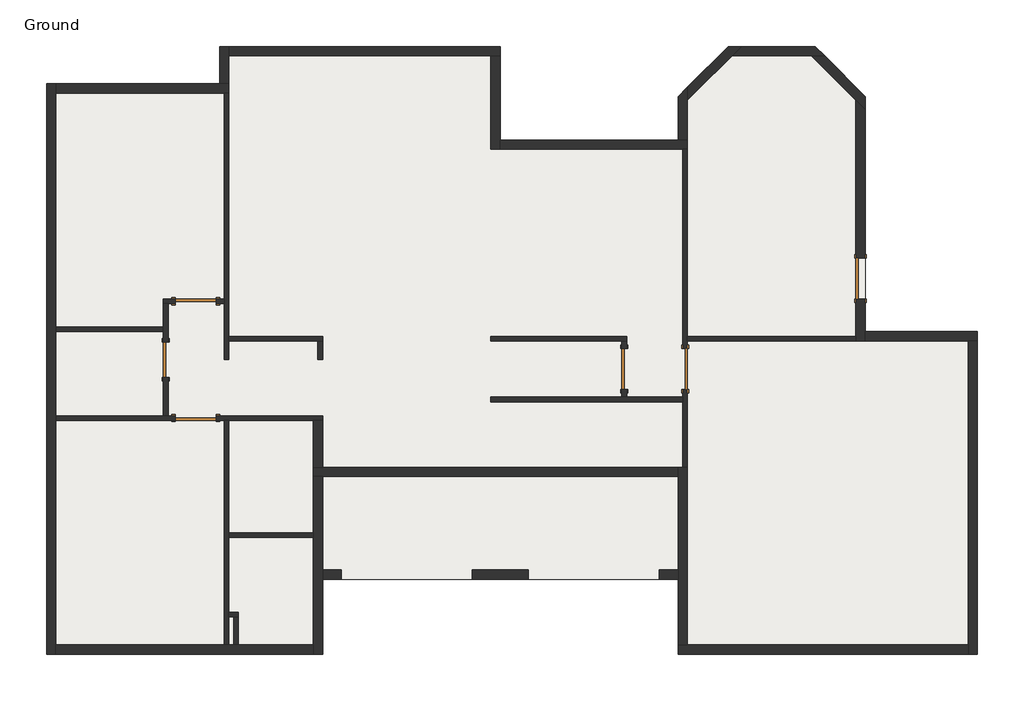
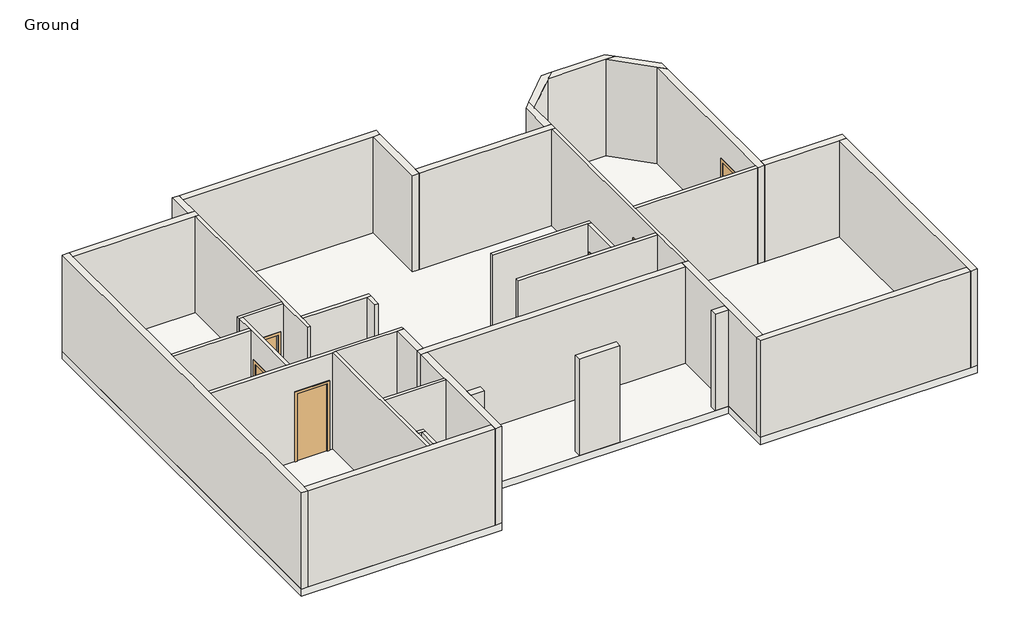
# One storey: 38 walls, 6 doors, 1 slab.
"""IFC4 building model written with IfcOpenShell, lengths in millimetres."""

import ifcopenshell
import ifcopenshell.guid

model = None  # the IFC model being written
_history = None  # IfcOwnerHistory: only IFC2X3 demands one
_inside = {}  # id of a spatial element -> (the spatial element, [elements in it])
_under = {}  # id of a project, library or spatial element -> (it, [spatial elements below it])
_declared = {}  # id of a project -> (the project, [libraries it declares])
_typed = {}  # id of a type object -> (the type object, [elements of that type])
_made_of = {}  # id of a material, layer set ... -> (it, [elements and type objects made of it])


def new_model(schema):
    """Start an empty IFC model of exactly this schema.

    Asked for "IFC4X3", IfcOpenShell would pick the latest addendum, in which some entities
    have other attributes; the version numbers below select the first issue.
    IFC2X3 requires an IfcOwnerHistory on every rooted entity: one is made here for all.
    """
    global model, _history
    if schema == "IFC4X3":
        model = ifcopenshell.file(schema_version=(4, 3, 0, 0))
    else:
        model = ifcopenshell.file(schema=schema)
    _inside.clear()
    _under.clear()
    _declared.clear()
    _typed.clear()
    _made_of.clear()
    _history = None
    if model.schema == "IFC2X3":
        org = make("IfcOrganization", Name="unknown")
        user = make(
            "IfcPersonAndOrganization",
            ThePerson=make("IfcPerson", FamilyName="unknown"),
            TheOrganization=org,
        )
        app = make(
            "IfcApplication",
            ApplicationDeveloper=org,
            Version="unknown",
            ApplicationFullName="unknown",
            ApplicationIdentifier="unknown",
        )
        _history = make(
            "IfcOwnerHistory",
            OwningUser=user,
            OwningApplication=app,
            ChangeAction="ADDED",
            CreationDate=0,
        )
    return model


def make(cls, **values):
    """One entity of the class cls with the attributes given. An attribute that is None is left unset."""
    return model.create_entity(
        cls, **{name: value for name, value in values.items() if value is not None}
    )


def rooted(cls, **values):
    """An entity with a GlobalId (a new one), such as an element, a storey or a relation."""
    return make(cls, GlobalId=ifcopenshell.guid.new(), OwnerHistory=_history, **values)


def si_unit(unit_type, name, prefix=None):
    """IfcSIUnit, for example si_unit("LENGTHUNIT", "METRE", prefix="MILLI")."""
    return make("IfcSIUnit", UnitType=unit_type, Prefix=prefix, Name=name)


def assignment(units):
    """IfcUnitAssignment: the units of a project."""
    return None if units is None else make("IfcUnitAssignment", Units=units)


def point(xyz):
    """IfcCartesianPoint."""
    return None if xyz is None else make("IfcCartesianPoint", Coordinates=xyz)


def direction(xyz):
    """IfcDirection."""
    return None if xyz is None else make("IfcDirection", DirectionRatios=xyz)


def frame(location, z_axis=None, x_axis=None):
    """IfcAxis2Placement3D, a coordinate frame: its origin and axes. An axis left out is left unset."""
    return make(
        "IfcAxis2Placement3D",
        Location=point(location),
        Axis=direction(z_axis),
        RefDirection=direction(x_axis),
    )


def origin():
    """The frame at (0, 0, 0) with its axes left unset."""
    return frame((0.0, 0.0, 0.0))


def origin_with_axes():
    """The frame at (0, 0, 0) with the z axis (0, 0, 1) and the x axis (1, 0, 0) written out."""
    return frame((0.0, 0.0, 0.0), z_axis=(0.0, 0.0, 1.0), x_axis=(1.0, 0.0, 0.0))


def place(relative_to, where):
    """IfcLocalPlacement: puts the frame where relative to a parent placement (None: the world)."""
    return make(
        "IfcLocalPlacement", PlacementRelTo=relative_to, RelativePlacement=where
    )


def context(
    kind, dimensions, precision=None, world=None, true_north=None, identifier=None
):
    """IfcGeometricRepresentationContext, for example the 3D "Model" context."""
    return make(
        "IfcGeometricRepresentationContext",
        ContextIdentifier=identifier,
        ContextType=kind,
        CoordinateSpaceDimension=dimensions,
        Precision=precision,
        WorldCoordinateSystem=world,
        TrueNorth=true_north,
    )


def project(units=None, contexts=None):
    """IfcProject with its units and contexts."""
    return rooted(
        "IfcProject",
        Name="project",
        RepresentationContexts=contexts,
        UnitsInContext=assignment(units),
    )


def spatial(cls, under=None, at=None, **own):
    """A site, building, storey or space (cls), placed at a placement, below another one or the project."""
    s = rooted(cls, ObjectPlacement=at, **own)
    if under is not None:
        _under.setdefault(under.id(), (under, []))[1].append(s)
    return s


def polyline(points):
    """IfcPolyline through the points."""
    return make("IfcPolyline", Points=[point(p) for p in points])


def outline(outer, holes=None, kind="AREA"):
    """IfcArbitraryClosedProfileDef: a profile drawn as a closed curve; with holes, ...WithVoids."""
    if holes is None:
        return make("IfcArbitraryClosedProfileDef", ProfileType=kind, OuterCurve=outer)
    return make(
        "IfcArbitraryProfileDefWithVoids",
        ProfileType=kind,
        OuterCurve=outer,
        InnerCurves=holes,
    )


def extrude(swept, where, along, depth):
    """IfcExtrudedAreaSolid: the profile swept, set in the frame where, extruded along a direction by depth."""
    return make(
        "IfcExtrudedAreaSolid",
        SweptArea=swept,
        Position=where,
        ExtrudedDirection=direction(along),
        Depth=depth,
    )


def faces_of(points, faces, orient=None, outer=None):
    """IfcFace entities. A face is a list of loops; a loop is a list of indices into points, from 0.

    orient and outer hold one flag for each loop. By default every Orientation is true, the
    first loop of a face is its IfcFaceOuterBound and the others are IfcFaceBound.
    """
    made = []
    for i, loops in enumerate(faces):
        bounds = []
        for j, loop in enumerate(loops):
            is_outer = j == 0 if outer is None else outer[i][j]
            bounds.append(
                make(
                    "IfcFaceOuterBound" if is_outer else "IfcFaceBound",
                    Bound=make("IfcPolyLoop", Polygon=[points[k] for k in loop]),
                    Orientation=True if orient is None else orient[i][j],
                )
            )
        made.append(make("IfcFace", Bounds=bounds))
    return made


def faceted_brep(points, faces, orient=None, outer=None, voids=None):
    """IfcFacetedBrep: a solid bounded by flat faces; with voids (closed shells), ...WithVoids."""
    shared = [point(p) for p in points]
    hull = make("IfcClosedShell", CfsFaces=faces_of(shared, faces, orient, outer))
    if voids is None:
        return make("IfcFacetedBrep", Outer=hull)
    return make(
        "IfcFacetedBrepWithVoids",
        Outer=hull,
        Voids=[
            make(cls, CfsFaces=faces_of(shared, fs, o, b)) for cls, fs, o, b in voids
        ],
    )


def shape(context_of_items, identifier, shape_type, items):
    """IfcShapeRepresentation: the items that make up one representation, for example the "Body"."""
    return make(
        "IfcShapeRepresentation",
        ContextOfItems=context_of_items,
        RepresentationIdentifier=identifier,
        RepresentationType=shape_type,
        Items=items,
    )


def source(mapping_origin, context_of_items, identifier, shape_type, items):
    """IfcRepresentationMap: a shape defined once, which mapped items show again and again."""
    return make(
        "IfcRepresentationMap",
        MappingOrigin=mapping_origin,
        MappedRepresentation=shape(context_of_items, identifier, shape_type, items),
    )


def transform(
    local_origin,
    x_axis=None,
    y_axis=None,
    z_axis=None,
    scale=None,
    scale2=None,
    scale3=None,
    uniform=True,
):
    """IfcCartesianTransformationOperator3D, or its non-uniform kind. x_axis, y_axis, z_axis: its Axis1, 2, 3."""
    if uniform:
        return make(
            "IfcCartesianTransformationOperator3D",
            Axis1=direction(x_axis),
            Axis2=direction(y_axis),
            LocalOrigin=point(local_origin),
            Scale=scale,
            Axis3=direction(z_axis),
        )
    return make(
        "IfcCartesianTransformationOperator3DnonUniform",
        Axis1=direction(x_axis),
        Axis2=direction(y_axis),
        LocalOrigin=point(local_origin),
        Scale=scale,
        Axis3=direction(z_axis),
        Scale2=scale2,
        Scale3=scale3,
    )


def mapped(mapping_source, mapping_target):
    """IfcMappedItem: shows the shape of a source again, moved by a transform."""
    return make(
        "IfcMappedItem", MappingSource=mapping_source, MappingTarget=mapping_target
    )


def made_of(thing, what):
    """Note that an element or type object is made of a material, layer set ...; save() writes the relation."""
    if what is not None:
        _made_of.setdefault(what.id(), (what, []))[1].append(thing)
    return thing


def element(
    cls,
    number,
    at=None,
    inside=None,
    cuts=None,
    type_object=None,
    material=None,
    context=None,
    identifier="Body",
    shape_type=None,
    held_by="IfcProductDefinitionShape",
    body=None,
    shapes=None,
    **own,
):
    """One element of the class cls, such as IfcWall. Its Tag is "e" and its number.

    at: its placement. inside: the storey or other place that contains it. cuts: it is an
    opening in that element (IfcRelVoidsElement). A single representation is given by context,
    identifier, shape_type and body (its items); several are given by shapes. held_by: the class
    of the entity that holds the representations. save() writes the other relations.
    """
    e = rooted(cls, Tag="e%d" % number, ObjectPlacement=at, **own)
    if body is not None:
        shapes = [shape(context, identifier, shape_type, body)]
    if shapes is not None:
        e.Representation = make(held_by, Representations=shapes)
    if inside is not None:
        _inside.setdefault(inside.id(), (inside, []))[1].append(e)
    if cuts is not None:
        rooted(
            "IfcRelVoidsElement", RelatingBuildingElement=cuts, RelatedOpeningElement=e
        )
    if type_object is not None:
        _typed.setdefault(type_object.id(), (type_object, []))[1].append(e)
    return made_of(e, material)


def aggregate(whole, parts):
    """IfcRelAggregates: a whole, such as a stair, and the parts it consists of."""
    return rooted("IfcRelAggregates", RelatingObject=whole, RelatedObjects=parts)


def save(model, path):
    """Write the relations noted so far, then the file.

    IfcRelAggregates (storeys below a building ...), IfcRelContainedInSpatialStructure (elements
    in a storey), IfcRelDefinesByType, IfcRelAssociatesMaterial and IfcRelDeclares: one each for
    every whole, place, type object, material and project.
    """
    for whole, parts in _under.values():
        aggregate(whole, parts)
    for where, things in _inside.values():
        rooted(
            "IfcRelContainedInSpatialStructure",
            RelatedElements=things,
            RelatingStructure=where,
        )
    for kind, things in _typed.values():
        rooted("IfcRelDefinesByType", RelatedObjects=things, RelatingType=kind)
    for what, things in _made_of.values():
        rooted("IfcRelAssociatesMaterial", RelatedObjects=things, RelatingMaterial=what)
    for by, libraries in _declared.values():
        rooted("IfcRelDeclares", RelatingContext=by, RelatedDefinitions=libraries)
    model.write(path)


def m_single_flush_0750x_2100mm_00401f9a(model_context):
    return source(origin(), model_context, "Body", "SweptSolid", [
        extrude(outline(polyline([(2176.0, -451.0), (0.0, -451.0), (0.0, -375.0), (2100.0, -375.0), (2100.0, 375.0), (0.0, 375.0), (0.0, 451.0), (2176.0, 451.0), (2176.0, -451.0)])), frame((0.0, -75.0, 0.0), z_axis=(0.0, 1.0, 0.0), x_axis=(0.0, 0.0, 1.0)), (0.0, 0.0, 1.0), 25.0),
        extrude(outline(polyline([(2176.0, 451.0), (2176.0, -451.0), (0.0, -451.0), (0.0, -375.0), (2100.0, -375.0), (2100.0, 375.0), (0.0, 375.0), (0.0, 451.0), (2176.0, 451.0)])), frame((0.0, 50.0, 0.0), z_axis=(0.0, 1.0, 0.0), x_axis=(0.0, 0.0, 1.0)), (0.0, 0.0, 1.0), 25.0),
        extrude(outline(polyline([(375.0, 1.0), (375.0, -50.0), (-375.0, -50.0), (-375.0, 1.0), (375.0, 1.0)])), origin_with_axes(), (0.0, 0.0, 1.0), 2100.0),
    ])


def m_single_flush_0875x_2100mm_6ab5fb2a(model_context):
    return source(origin(), model_context, "Body", "SweptSolid", [
        extrude(outline(polyline([(2176.0, -513.5), (0.0, -513.5), (0.0, -437.5), (2100.0, -437.5), (2100.0, 437.5), (0.0, 437.5), (0.0, 513.5), (2176.0, 513.5), (2176.0, -513.5)])), frame((0.0, 50.0, 0.0), z_axis=(0.0, 1.0, 0.0), x_axis=(0.0, 0.0, 1.0)), (0.0, 0.0, 1.0), 25.0),
        extrude(outline(polyline([(2176.0, 513.5), (2176.0, -513.5), (0.0, -513.5), (0.0, -437.5), (2100.0, -437.5), (2100.0, 437.5), (0.0, 437.5), (0.0, 513.5), (2176.0, 513.5)])), frame((0.0, -75.0, 0.0), z_axis=(0.0, 1.0, 0.0), x_axis=(0.0, 0.0, 1.0)), (0.0, 0.0, 1.0), 25.0),
        extrude(outline(polyline([(437.5, -1.0), (-437.5, -1.0), (-437.5, 50.0), (437.5, 50.0), (437.5, -1.0)])), origin_with_axes(), (0.0, 0.0, 1.0), 2100.0),
    ])


def m_single_flush_0875x_2100mm_75bba9fe(model_context):
    return source(origin(), model_context, "Body", "SweptSolid", [
        extrude(outline(polyline([(2176.0, -513.5), (0.0, -513.5), (0.0, -437.5), (2100.0, -437.5), (2100.0, 437.5), (0.0, 437.5), (0.0, 513.5), (2176.0, 513.5), (2176.0, -513.5)])), frame((0.0, -75.0, 0.0), z_axis=(0.0, 1.0, 0.0), x_axis=(0.0, 0.0, 1.0)), (0.0, 0.0, 1.0), 25.0),
        extrude(outline(polyline([(2176.0, 513.5), (2176.0, -513.5), (0.0, -513.5), (0.0, -437.5), (2100.0, -437.5), (2100.0, 437.5), (0.0, 437.5), (0.0, 513.5), (2176.0, 513.5)])), frame((0.0, 50.0, 0.0), z_axis=(0.0, 1.0, 0.0), x_axis=(0.0, 0.0, 1.0)), (0.0, 0.0, 1.0), 25.0),
        extrude(outline(polyline([(437.5, 1.0), (437.5, -50.0), (-437.5, -50.0), (-437.5, 1.0), (437.5, 1.0)])), origin_with_axes(), (0.0, 0.0, 1.0), 2100.0),
    ])


def m_single_flush_0875x_2100mm_70c1e8a7(model_context):
    return source(origin(), model_context, "Body", "SweptSolid", [
        extrude(outline(polyline([(2176.0, -513.5), (0.0, -513.5), (0.0, -437.5), (2100.0, -437.5), (2100.0, 437.5), (0.0, 437.5), (0.0, 513.5), (2176.0, 513.5), (2176.0, -513.5)])), frame((0.0, -125.0, 0.0), z_axis=(0.0, 1.0, 0.0), x_axis=(0.0, 0.0, 1.0)), (0.0, 0.0, 1.0), 25.0),
        extrude(outline(polyline([(2176.0, 513.5), (2176.0, -513.5), (0.0, -513.5), (0.0, -437.5), (2100.0, -437.5), (2100.0, 437.5), (0.0, 437.5), (0.0, 513.5), (2176.0, 513.5)])), frame((0.0, 100.0, 0.0), z_axis=(0.0, 1.0, 0.0), x_axis=(0.0, 0.0, 1.0)), (0.0, 0.0, 1.0), 25.0),
        extrude(outline(polyline([(437.5, -49.0), (437.5, -100.0), (-437.5, -100.0), (-437.5, -49.0), (437.5, -49.0)])), origin_with_axes(), (0.0, 0.0, 1.0), 2100.0),
    ])


model = new_model("IFC4")

# Units and contexts
model_context = context("Model", 3, world=origin())
ifc_project = project(units=[si_unit("LENGTHUNIT", "METRE", prefix="MILLI")], contexts=[model_context])

# Site, building, storey
site = spatial("IfcSite", under=ifc_project)
building = spatial("IfcBuilding", under=site)
storey = spatial("IfcBuildingStorey", under=building, Name="Ground", Elevation=0.0)

# Doors
placement = place(None, origin())
m_single_flush_0750x_2100mm_shape = m_single_flush_0750x_2100mm_00401f9a(model_context)
element("IfcDoor", 1, ObjectType="M_Single-Flush : 0750x 2100mm", at=placement, inside=storey, context=model_context, shape_type="MappedRepresentation", body=[
    mapped(m_single_flush_0750x_2100mm_shape, transform((-11423.1044048, -609.3326669, 0.0), x_axis=(0.0, -1.0, 0.0), y_axis=(1.0, 0.0, 0.0), z_axis=(0.0, 0.0, 1.0))),
])
m_single_flush_0875x_2100mm_shape = m_single_flush_0875x_2100mm_6ab5fb2a(model_context)
element("IfcDoor", 2, ObjectType="M_Single-Flush : 0875x 2100mm", at=placement, inside=storey, context=model_context, shape_type="MappedRepresentation", body=[
    mapped(m_single_flush_0875x_2100mm_shape, transform((-10785.6044048, 640.6673331, 0.0), x_axis=(1.0, 0.0, 0.0), y_axis=(0.0, 1.0, 0.0), z_axis=(0.0, 0.0, 1.0))),
])
element("IfcDoor", 3, ObjectType="M_Single-Flush : 0875x 2100mm", at=placement, inside=storey, context=model_context, shape_type="MappedRepresentation", body=[
    mapped(m_single_flush_0875x_2100mm_shape, transform((-1623.1044048, -809.3326669, 0.0), x_axis=(0.0, 1.0, 0.0), y_axis=(-1.0, 0.0, 0.0), z_axis=(0.0, 0.0, 1.0))),
])
m_single_flush_0875x_2100mm_2_shape = m_single_flush_0875x_2100mm_75bba9fe(model_context)
element("IfcDoor", 4, ObjectType="M_Single-Flush : 0875x 2100mm", at=placement, inside=storey, context=model_context, shape_type="MappedRepresentation", body=[
    mapped(m_single_flush_0875x_2100mm_2_shape, transform((-10785.6044048, -1859.3326669, 0.0), x_axis=(1.0, 0.0, 0.0), y_axis=(0.0, 1.0, 0.0), z_axis=(0.0, 0.0, 1.0))),
])
element("IfcDoor", 5, ObjectType="M_Single-Flush : 0875x 2100mm", at=placement, inside=storey, context=model_context, shape_type="MappedRepresentation", body=[
    mapped(m_single_flush_0875x_2100mm_2_shape, transform((-323.1044048, -809.3326669, 0.0), x_axis=(0.0, 1.0, 0.0), y_axis=(-1.0, 0.0, 0.0), z_axis=(0.0, 0.0, 1.0))),
])
m_single_flush_0875x_2100mm_3_shape = m_single_flush_0875x_2100mm_70c1e8a7(model_context)
element("IfcDoor", 6, ObjectType="M_Single-Flush : 0875x 2100mm", at=placement, inside=storey, context=model_context, shape_type="MappedRepresentation", body=[
    mapped(m_single_flush_0875x_2100mm_3_shape, transform((3426.8955952, 1128.1673331, 0.0), x_axis=(0.0, -1.0, 0.0), y_axis=(1.0, 0.0, 0.0), z_axis=(0.0, 0.0, 1.0))),
])

# Slab
element("IfcSlab", 7, ObjectType="Insitu Concrete 225mm", at=placement, inside=storey, context=model_context, shape_type="SweptSolid", body=[
    extrude(outline(polyline([(-13973.1044048, 5290.6673331), (-10273.1044048, 5290.6673331), (-10273.1044048, 6090.6673331), (-4273.1044048, 6090.6673331), (-4273.1044048, 4090.6673331), (-473.1044048, 4090.6673331), (-473.1044048, 5022.038183), (595.5247453, 6090.6673331), (2458.2664451, 6090.6673331), (3526.8955952, 5022.038183), (3526.8955952, -9.3326669), (5926.8955952, -9.3326669), (5926.8955952, -6909.3326669), (-473.1044048, -6909.3326669), (-473.1044048, -5309.3326669), (-8073.1044048, -5309.3326669), (-8073.1044048, -6909.3326669), (-13973.1044048, -6909.3326669), (-13973.1044048, 5290.6673331)])), frame((0.0, 0.0, -225.0), z_axis=(0.0, 0.0, 1.0), x_axis=(1.0, 0.0, 0.0)), (0.0, 0.0, 1.0), 225.0),
])

# Walls
element("IfcWall", 8, ObjectType="Generic - 100mm", at=placement, inside=storey, context=model_context, shape_type="Brep", body=[
    faceted_brep([(-10348.1044048, -1909.3326669, 2100.0), (-10348.1044048, -1909.3326669, 0.0), (-10173.1044048, -1909.3326669, 0.0), (-10073.1044048, -1909.3326669, 0.0), (-8273.1044048, -1909.3326669, 0.0), (-8073.1044048, -1909.3326669, 0.0), (-8073.1044048, -1909.3326669, 3000.0), (-8273.1044048, -1909.3326669, 3000.0), (-10073.1044048, -1909.3326669, 3000.0), (-10173.1044048, -1909.3326669, 3000.0), (-13773.1044048, -1909.3326669, 3000.0), (-13773.1044048, -1909.3326669, 0.0), (-11223.1044048, -1909.3326669, 0.0), (-11223.1044048, -1909.3326669, 2100.0), (-8073.1044048, -1809.3326669, 0.0), (-10348.1044048, -1809.3326669, 0.0), (-10348.1044048, -1809.3326669, 2100.0), (-11223.1044048, -1809.3326669, 2100.0), (-11223.1044048, -1809.3326669, 0.0), (-11373.1044048, -1809.3326669, 0.0), (-11473.1044048, -1809.3326669, 0.0), (-13773.1044048, -1809.3326669, 0.0), (-13773.1044048, -1809.3326669, 3000.0), (-11473.1044048, -1809.3326669, 3000.0), (-11373.1044048, -1809.3326669, 3000.0), (-8073.1044048, -1809.3326669, 3000.0)], [[[0, 1, 2, 3, 4, 5, 6, 7, 8, 9, 10, 11, 12, 13]], [[14, 15, 16, 17, 18, 19, 20, 21, 22, 23, 24, 25]], [[12, 11, 21, 20, 19, 18]], [[5, 4, 3, 2, 1, 15, 14]], [[10, 9, 8, 7, 6, 25, 24, 23, 22]], [[11, 10, 22, 21]], [[6, 5, 14, 25]], [[16, 15, 1, 0]], [[17, 16, 0, 13]], [[18, 17, 13, 12]]]),
])
element("IfcWall", 9, ObjectType="Generic - 100mm", at=placement, inside=storey, context=model_context, shape_type="Brep", body=[
    faceted_brep([(-10173.1044048, -1909.3326669, 0.0), (-10173.1044048, -6709.3326669, 0.0), (-10173.1044048, -6709.3326669, 3000.0), (-10173.1044048, -1909.3326669, 3000.0), (-10073.1044048, -1909.3326669, 0.0), (-10073.1044048, -1909.3326669, 3000.0), (-10073.1044048, -4309.3326669, 3000.0), (-10073.1044048, -4409.3326669, 3000.0), (-10073.1044048, -6009.3326669, 3000.0), (-10073.1044048, -6109.3326669, 3000.0), (-10073.1044048, -6709.3326669, 3000.0), (-10073.1044048, -6709.3326669, 0.0), (-10073.1044048, -6109.3326669, 0.0), (-10073.1044048, -6009.3326669, 0.0), (-10073.1044048, -4409.3326669, 0.0), (-10073.1044048, -4309.3326669, 0.0)], [[[0, 1, 2, 3]], [[4, 5, 6, 7, 8, 9, 10, 11, 12, 13, 14, 15]], [[1, 0, 4, 15, 14, 13, 12, 11]], [[3, 2, 10, 9, 8, 7, 6, 5]], [[2, 1, 11, 10]], [[0, 3, 5, 4]]]),
])
element("IfcWall", 10, ObjectType="Generic - 100mm", at=placement, inside=storey, context=model_context, shape_type="SweptSolid", body=[
    extrude(outline(polyline([(-10073.1044048, -4309.3326669), (-8273.1044048, -4309.3326669), (-8273.1044048, -4409.3326669), (-10073.1044048, -4409.3326669), (-10073.1044048, -4309.3326669)])), origin_with_axes(), (0.0, 0.0, 1.0), 3000.0),
])
element("IfcWall", 11, ObjectType="Generic - 100mm", at=placement, inside=storey, context=model_context, shape_type="Brep", body=[
    faceted_brep([(-10073.1044048, -6109.3326669, 0.0), (-9973.1044048, -6109.3326669, 0.0), (-9873.1044048, -6109.3326669, 0.0), (-9873.1044048, -6109.3326669, 3000.0), (-9973.1044048, -6109.3326669, 3000.0), (-10073.1044048, -6109.3326669, 3000.0), (-10073.1044048, -6009.3326669, 0.0), (-10073.1044048, -6009.3326669, 3000.0), (-9873.1044048, -6009.3326669, 3000.0), (-9873.1044048, -6009.3326669, 0.0)], [[[0, 1, 2, 3, 4, 5]], [[6, 7, 8, 9]], [[2, 1, 0, 6, 9]], [[5, 4, 3, 8, 7]], [[0, 5, 7, 6]], [[3, 2, 9, 8]]]),
])
element("IfcWall", 12, ObjectType="Generic - 100mm", at=placement, inside=storey, context=model_context, shape_type="SweptSolid", body=[
    extrude(outline(polyline([(-9973.1044048, -6709.3326669), (-9973.1044048, -6109.3326669), (-9873.1044048, -6109.3326669), (-9873.1044048, -6709.3326669), (-9973.1044048, -6709.3326669)])), origin_with_axes(), (0.0, 0.0, 1.0), 3000.0),
])
element("IfcWall", 13, ObjectType="Generic - 100mm", at=placement, inside=storey, context=model_context, shape_type="SweptSolid", body=[
    extrude(outline(polyline([(-11473.1044048, -9.3326669), (-13773.1044048, -9.3326669), (-13773.1044048, 90.6673331), (-11473.1044048, 90.6673331), (-11473.1044048, -9.3326669)])), origin_with_axes(), (0.0, 0.0, 1.0), 3000.0),
])
element("IfcWall", 14, ObjectType="Generic - 100mm", at=placement, inside=storey, context=model_context, shape_type="Brep", body=[
    faceted_brep([(-10173.1044048, 5090.6673331, 0.0), (-10173.1044048, 690.6673331, 0.0), (-10173.1044048, 590.6673331, 0.0), (-10173.1044048, -609.3326669, 0.0), (-10173.1044048, -609.3326669, 3000.0), (-10173.1044048, 590.6673331, 3000.0), (-10173.1044048, 690.6673331, 3000.0), (-10173.1044048, 5090.6673331, 3000.0), (-10073.1044048, 5090.6673331, 0.0), (-10073.1044048, 5090.6673331, 3000.0), (-10073.1044048, -109.3326669, 3000.0), (-10073.1044048, -209.3326669, 3000.0), (-10073.1044048, -609.3326669, 3000.0), (-10073.1044048, -609.3326669, 0.0), (-10073.1044048, -209.3326669, 0.0), (-10073.1044048, -109.3326669, 0.0)], [[[0, 1, 2, 3, 4, 5, 6, 7]], [[8, 9, 10, 11, 12, 13, 14, 15]], [[3, 2, 1, 0, 8, 15, 14, 13]], [[4, 3, 13, 12]], [[7, 6, 5, 4, 12, 11, 10, 9]], [[0, 7, 9, 8]]]),
])
element("IfcWall", 15, ObjectType="Generic - 100mm", at=placement, inside=storey, context=model_context, shape_type="Brep", body=[
    faceted_brep([(-10173.1044048, 690.6673331, 0.0), (-10348.1044048, 690.6673331, 0.0), (-10348.1044048, 690.6673331, 2100.0), (-11223.1044048, 690.6673331, 2100.0), (-11223.1044048, 690.6673331, 0.0), (-11473.1044048, 690.6673331, 0.0), (-11473.1044048, 690.6673331, 3000.0), (-10173.1044048, 690.6673331, 3000.0), (-10348.1044048, 590.6673331, 2100.0), (-10348.1044048, 590.6673331, 0.0), (-10173.1044048, 590.6673331, 0.0), (-10173.1044048, 590.6673331, 3000.0), (-11373.1044048, 590.6673331, 3000.0), (-11473.1044048, 590.6673331, 3000.0), (-11473.1044048, 590.6673331, 0.0), (-11373.1044048, 590.6673331, 0.0), (-11223.1044048, 590.6673331, 0.0), (-11223.1044048, 590.6673331, 2100.0)], [[[0, 1, 2, 3, 4, 5, 6, 7]], [[8, 9, 10, 11, 12, 13, 14, 15, 16, 17]], [[10, 9, 1, 0]], [[16, 15, 14, 5, 4]], [[7, 6, 13, 12, 11]], [[0, 7, 11, 10]], [[6, 5, 14, 13]], [[2, 1, 9, 8]], [[3, 2, 8, 17]], [[4, 3, 17, 16]]]),
])
element("IfcWall", 16, ObjectType="Generic - 100mm", at=placement, inside=storey, context=model_context, shape_type="Brep", body=[
    faceted_brep([(-11473.1044048, -984.3326669, 2100.0), (-11473.1044048, -984.3326669, 0.0), (-11473.1044048, -1809.3326669, 0.0), (-11473.1044048, -1809.3326669, 3000.0), (-11473.1044048, -9.3326669, 3000.0), (-11473.1044048, 90.6673331, 3000.0), (-11473.1044048, 590.6673331, 3000.0), (-11473.1044048, 590.6673331, 0.0), (-11473.1044048, 90.6673331, 0.0), (-11473.1044048, -9.3326669, 0.0), (-11473.1044048, -234.3326669, 0.0), (-11473.1044048, -234.3326669, 2100.0), (-11373.1044048, -1809.3326669, 0.0), (-11373.1044048, -984.3326669, 0.0), (-11373.1044048, -984.3326669, 2100.0), (-11373.1044048, -234.3326669, 2100.0), (-11373.1044048, -234.3326669, 0.0), (-11373.1044048, 590.6673331, 0.0), (-11373.1044048, 590.6673331, 3000.0), (-11373.1044048, -1809.3326669, 3000.0)], [[[0, 1, 2, 3, 4, 5, 6, 7, 8, 9, 10, 11]], [[12, 13, 14, 15, 16, 17, 18, 19]], [[2, 1, 13, 12]], [[10, 9, 8, 7, 17, 16]], [[6, 5, 4, 3, 19, 18]], [[7, 6, 18, 17]], [[3, 2, 12, 19]], [[14, 13, 1, 0]], [[15, 14, 0, 11]], [[16, 15, 11, 10]]]),
])
element("IfcWall", 17, ObjectType="Generic - 100mm", at=placement, inside=storey, context=model_context, shape_type="Brep", body=[
    faceted_brep([(-10073.1044048, -209.3326669, 0.0), (-8173.1044048, -209.3326669, 0.0), (-8073.1044048, -209.3326669, 0.0), (-8073.1044048, -209.3326669, 3000.0), (-8173.1044048, -209.3326669, 3000.0), (-10073.1044048, -209.3326669, 3000.0), (-10073.1044048, -109.3326669, 0.0), (-10073.1044048, -109.3326669, 3000.0), (-8073.1044048, -109.3326669, 3000.0), (-8073.1044048, -109.3326669, 0.0)], [[[0, 1, 2, 3, 4, 5]], [[6, 7, 8, 9]], [[2, 1, 0, 6, 9]], [[5, 4, 3, 8, 7]], [[0, 5, 7, 6]], [[3, 2, 9, 8]]]),
])
element("IfcWall", 18, ObjectType="Generic - 100mm", at=placement, inside=storey, context=model_context, shape_type="SweptSolid", body=[
    extrude(outline(polyline([(-8173.1044048, -609.3326669), (-8173.1044048, -209.3326669), (-8073.1044048, -209.3326669), (-8073.1044048, -609.3326669), (-8173.1044048, -609.3326669)])), origin_with_axes(), (0.0, 0.0, 1.0), 3000.0),
])
element("IfcWall", 19, ObjectType="Generic - 100mm", at=placement, inside=storey, context=model_context, shape_type="SweptSolid", body=[
    extrude(outline(polyline([(-273.1044048, -109.3326669), (3326.8955952, -109.3326669), (3326.8955952, -209.3326669), (-273.1044048, -209.3326669), (-273.1044048, -109.3326669)])), origin_with_axes(), (0.0, 0.0, 1.0), 3000.0),
])
element("IfcWall", 20, ObjectType="Generic - 100mm", at=placement, inside=storey, context=model_context, shape_type="Brep", body=[
    faceted_brep([(-273.1044048, -371.8326669, 2100.0), (-273.1044048, -371.8326669, 0.0), (-273.1044048, -209.3326669, 0.0), (-273.1044048, -109.3326669, 0.0), (-273.1044048, 3890.6673331, 0.0), (-273.1044048, 3890.6673331, 3000.0), (-273.1044048, -109.3326669, 3000.0), (-273.1044048, -209.3326669, 3000.0), (-273.1044048, -2909.3326669, 3000.0), (-273.1044048, -2909.3326669, 0.0), (-273.1044048, -1246.8326669, 0.0), (-273.1044048, -1246.8326669, 2100.0), (-373.1044048, 3890.6673331, 0.0), (-373.1044048, -371.8326669, 0.0), (-373.1044048, -371.8326669, 2100.0), (-373.1044048, -1246.8326669, 2100.0), (-373.1044048, -1246.8326669, 0.0), (-373.1044048, -1409.3326669, 0.0), (-373.1044048, -1509.3326669, 0.0), (-373.1044048, -2909.3326669, 0.0), (-373.1044048, -2909.3326669, 3000.0), (-373.1044048, -1509.3326669, 3000.0), (-373.1044048, -1409.3326669, 3000.0), (-373.1044048, 3890.6673331, 3000.0)], [[[0, 1, 2, 3, 4, 5, 6, 7, 8, 9, 10, 11]], [[12, 13, 14, 15, 16, 17, 18, 19, 20, 21, 22, 23]], [[10, 9, 19, 18, 17, 16]], [[4, 3, 2, 1, 13, 12]], [[8, 7, 6, 5, 23, 22, 21, 20]], [[5, 4, 12, 23]], [[9, 8, 20, 19]], [[14, 13, 1, 0]], [[15, 14, 0, 11]], [[16, 15, 11, 10]]]),
])
element("IfcWall", 21, ObjectType="Generic - 100mm", at=placement, inside=storey, context=model_context, shape_type="Brep", body=[
    faceted_brep([(-373.1044048, -1409.3326669, 0.0), (-1573.1044048, -1409.3326669, 0.0), (-1673.1044048, -1409.3326669, 0.0), (-4473.1044048, -1409.3326669, 0.0), (-4473.1044048, -1409.3326669, 3000.0), (-1673.1044048, -1409.3326669, 3000.0), (-1573.1044048, -1409.3326669, 3000.0), (-373.1044048, -1409.3326669, 3000.0), (-373.1044048, -1509.3326669, 0.0), (-373.1044048, -1509.3326669, 3000.0), (-4473.1044048, -1509.3326669, 3000.0), (-4473.1044048, -1509.3326669, 0.0)], [[[0, 1, 2, 3, 4, 5, 6, 7]], [[8, 9, 10, 11]], [[3, 2, 1, 0, 8, 11]], [[4, 3, 11, 10]], [[7, 6, 5, 4, 10, 9]], [[0, 7, 9, 8]]]),
])
element("IfcWall", 22, ObjectType="Generic - 100mm", at=placement, inside=storey, context=model_context, shape_type="Brep", body=[
    faceted_brep([(-4473.1044048, -209.3326669, 0.0), (-1673.1044048, -209.3326669, 0.0), (-1573.1044048, -209.3326669, 0.0), (-1573.1044048, -209.3326669, 3000.0), (-1673.1044048, -209.3326669, 3000.0), (-4473.1044048, -209.3326669, 3000.0), (-4473.1044048, -109.3326669, 0.0), (-4473.1044048, -109.3326669, 3000.0), (-1573.1044048, -109.3326669, 3000.0), (-1573.1044048, -109.3326669, 0.0)], [[[0, 1, 2, 3, 4, 5]], [[6, 7, 8, 9]], [[2, 1, 0, 6, 9]], [[5, 4, 3, 8, 7]], [[0, 5, 7, 6]], [[3, 2, 9, 8]]]),
])
element("IfcWall", 23, ObjectType="Generic - 100mm", at=placement, inside=storey, context=model_context, shape_type="SweptSolid", body=[
    extrude(outline(polyline([(-209.3326669, 0.0), (-371.8326669, 0.0), (-371.8326669, 2100.0), (-1246.8326669, 2100.0), (-1246.8326669, 0.0), (-1409.3326669, 0.0), (-1409.3326669, 3000.0), (-209.3326669, 3000.0), (-209.3326669, 0.0)])), frame((-1673.1044048, 0.0, 0.0), z_axis=(1.0, 0.0, 0.0), x_axis=(0.0, 1.0, 0.0)), (0.0, 0.0, 1.0), 100.0),
])
element("IfcWall", 24, ObjectType="Generic - 200mm", at=placement, inside=storey, context=model_context, shape_type="Brep", body=[
    faceted_brep([(-13773.1044048, -6909.3326669, 0.0), (-13773.1044048, -6709.3326669, 0.0), (-13773.1044048, -1909.3326669, 0.0), (-13773.1044048, -1809.3326669, 0.0), (-13773.1044048, -9.3326669, 0.0), (-13773.1044048, 90.6673331, 0.0), (-13773.1044048, 5090.6673331, 0.0), (-13773.1044048, 5290.6673331, 0.0), (-13773.1044048, 5290.6673331, 3000.0), (-13773.1044048, 5090.6673331, 3000.0), (-13773.1044048, 90.6673331, 3000.0), (-13773.1044048, -9.3326669, 3000.0), (-13773.1044048, -1809.3326669, 3000.0), (-13773.1044048, -1909.3326669, 3000.0), (-13773.1044048, -6709.3326669, 3000.0), (-13773.1044048, -6909.3326669, 3000.0), (-13973.1044048, -6909.3326669, 0.0), (-13973.1044048, -6909.3326669, 3000.0), (-13973.1044048, 5290.6673331, 3000.0), (-13973.1044048, 5290.6673331, 0.0)], [[[0, 1, 2, 3, 4, 5, 6, 7, 8, 9, 10, 11, 12, 13, 14, 15]], [[16, 17, 18, 19]], [[7, 6, 5, 4, 3, 2, 1, 0, 16, 19]], [[15, 14, 13, 12, 11, 10, 9, 8, 18, 17]], [[8, 7, 19, 18]], [[0, 15, 17, 16]]]),
])
element("IfcWall", 25, ObjectType="Generic - 200mm", at=placement, inside=storey, context=model_context, shape_type="Brep", body=[
    faceted_brep([(-13773.1044048, 5090.6673331, 0.0), (-10173.1044048, 5090.6673331, 0.0), (-10073.1044048, 5090.6673331, 0.0), (-10073.1044048, 5090.6673331, 3000.0), (-10173.1044048, 5090.6673331, 3000.0), (-13773.1044048, 5090.6673331, 3000.0), (-13773.1044048, 5290.6673331, 0.0), (-13773.1044048, 5290.6673331, 3000.0), (-10273.1044048, 5290.6673331, 3000.0), (-10073.1044048, 5290.6673331, 3000.0), (-10073.1044048, 5290.6673331, 0.0), (-10273.1044048, 5290.6673331, 0.0)], [[[0, 1, 2, 3, 4, 5]], [[6, 7, 8, 9, 10, 11]], [[2, 1, 0, 6, 11, 10]], [[5, 4, 3, 9, 8, 7]], [[0, 5, 7, 6]], [[3, 2, 10, 9]]]),
])
element("IfcWall", 26, ObjectType="Generic - 200mm", at=placement, inside=storey, context=model_context, shape_type="Brep", body=[
    faceted_brep([(-10073.1044048, 5290.6673331, 0.0), (-10073.1044048, 5890.6673331, 0.0), (-10073.1044048, 6090.6673331, 0.0), (-10073.1044048, 6090.6673331, 3000.0), (-10073.1044048, 5890.6673331, 3000.0), (-10073.1044048, 5290.6673331, 3000.0), (-10273.1044048, 5290.6673331, 0.0), (-10273.1044048, 5290.6673331, 3000.0), (-10273.1044048, 6090.6673331, 3000.0), (-10273.1044048, 6090.6673331, 0.0)], [[[0, 1, 2, 3, 4, 5]], [[6, 7, 8, 9]], [[2, 1, 0, 6, 9]], [[5, 4, 3, 8, 7]], [[0, 5, 7, 6]], [[3, 2, 9, 8]]]),
])
element("IfcWall", 27, ObjectType="Generic - 200mm", at=placement, inside=storey, context=model_context, shape_type="Brep", body=[
    faceted_brep([(-10073.1044048, 5890.6673331, 0.0), (-4473.1044048, 5890.6673331, 0.0), (-4273.1044048, 5890.6673331, 0.0), (-4273.1044048, 5890.6673331, 3000.0), (-4473.1044048, 5890.6673331, 3000.0), (-10073.1044048, 5890.6673331, 3000.0), (-10073.1044048, 6090.6673331, 0.0), (-10073.1044048, 6090.6673331, 3000.0), (-4273.1044048, 6090.6673331, 3000.0), (-4273.1044048, 6090.6673331, 0.0)], [[[0, 1, 2, 3, 4, 5]], [[6, 7, 8, 9]], [[2, 1, 0, 6, 9]], [[5, 4, 3, 8, 7]], [[0, 5, 7, 6]], [[3, 2, 9, 8]]]),
])
element("IfcWall", 28, ObjectType="Generic - 200mm", at=placement, inside=storey, context=model_context, shape_type="Brep", body=[
    faceted_brep([(-4473.1044048, 5890.6673331, 0.0), (-4473.1044048, 3890.6673331, 0.0), (-4473.1044048, 3890.6673331, 3000.0), (-4473.1044048, 5890.6673331, 3000.0), (-4273.1044048, 5890.6673331, 0.0), (-4273.1044048, 5890.6673331, 3000.0), (-4273.1044048, 4090.6673331, 3000.0), (-4273.1044048, 3890.6673331, 3000.0), (-4273.1044048, 3890.6673331, 0.0), (-4273.1044048, 4090.6673331, 0.0)], [[[0, 1, 2, 3]], [[4, 5, 6, 7, 8, 9]], [[1, 0, 4, 9, 8]], [[3, 2, 7, 6, 5]], [[0, 3, 5, 4]], [[2, 1, 8, 7]]]),
])
element("IfcWall", 29, ObjectType="Generic - 200mm", at=placement, inside=storey, context=model_context, shape_type="Brep", body=[
    faceted_brep([(-4273.1044048, 3890.6673331, 0.0), (-373.1044048, 3890.6673331, 0.0), (-273.1044048, 3890.6673331, 0.0), (-273.1044048, 3890.6673331, 3000.0), (-373.1044048, 3890.6673331, 3000.0), (-4273.1044048, 3890.6673331, 3000.0), (-4273.1044048, 4090.6673331, 0.0), (-4273.1044048, 4090.6673331, 3000.0), (-473.1044048, 4090.6673331, 3000.0), (-273.1044048, 4090.6673331, 3000.0), (-273.1044048, 4090.6673331, 0.0), (-473.1044048, 4090.6673331, 0.0)], [[[0, 1, 2, 3, 4, 5]], [[6, 7, 8, 9, 10, 11]], [[2, 1, 0, 6, 11, 10]], [[5, 4, 3, 9, 8, 7]], [[0, 5, 7, 6]], [[3, 2, 10, 9]]]),
])
element("IfcWall", 30, ObjectType="Generic - 200mm", at=placement, inside=storey, context=model_context, shape_type="Brep", body=[
    faceted_brep([(-273.1044048, 4090.6673331, 0.0), (-273.1044048, 4939.1954705, 0.0), (-273.1044048, 5222.038183, 0.0), (-273.1044048, 5222.038183, 3000.0), (-273.1044048, 4939.1954705, 3000.0), (-273.1044048, 4090.6673331, 3000.0), (-473.1044048, 4090.6673331, 0.0), (-473.1044048, 4090.6673331, 3000.0), (-473.1044048, 5022.038183, 3000.0), (-473.1044048, 5022.038183, 0.0)], [[[0, 1, 2, 3, 4, 5]], [[6, 7, 8, 9]], [[2, 1, 0, 6, 9]], [[5, 4, 3, 8, 7]], [[0, 5, 7, 6]], [[3, 2, 9, 8]]]),
])
element("IfcWall", 31, ObjectType="Generic - 200mm", at=placement, inside=storey, context=model_context, shape_type="Brep", body=[
    faceted_brep([(-273.1044048, 4939.1954705, 0.0), (678.3674578, 5890.6673331, 0.0), (878.3674578, 6090.6673331, 0.0), (878.3674578, 6090.6673331, 3000.0), (678.3674578, 5890.6673331, 3000.0), (-273.1044048, 4939.1954705, 3000.0), (-273.1044048, 5222.038183, 0.0), (-273.1044048, 5222.038183, 3000.0), (595.5247453, 6090.6673331, 3000.0), (595.5247453, 6090.6673331, 0.0)], [[[0, 1, 2, 3, 4, 5]], [[6, 7, 8, 9]], [[2, 1, 0, 6, 9]], [[5, 4, 3, 8, 7]], [[0, 5, 7, 6]], [[3, 2, 9, 8]]]),
])
element("IfcWall", 32, ObjectType="Generic - 200mm", at=placement, inside=storey, context=model_context, shape_type="Brep", body=[
    faceted_brep([(678.3674578, 5890.6673331, 0.0), (2375.4237326, 5890.6673331, 0.0), (2658.2664451, 5890.6673331, 0.0), (2658.2664451, 5890.6673331, 3000.0), (2375.4237326, 5890.6673331, 3000.0), (678.3674578, 5890.6673331, 3000.0), (878.3674578, 6090.6673331, 0.0), (878.3674578, 6090.6673331, 3000.0), (2458.2664451, 6090.6673331, 3000.0), (2458.2664451, 6090.6673331, 0.0)], [[[0, 1, 2, 3, 4, 5]], [[6, 7, 8, 9]], [[2, 1, 0, 6, 9]], [[5, 4, 3, 8, 7]], [[0, 5, 7, 6]], [[3, 2, 9, 8]]]),
])
element("IfcWall", 33, ObjectType="Generic - 200mm", at=placement, inside=storey, context=model_context, shape_type="Brep", body=[
    faceted_brep([(2375.4237326, 5890.6673331, 0.0), (3326.8955952, 4939.1954705, 0.0), (3526.8955952, 4739.1954705, 0.0), (3526.8955952, 4739.1954705, 3000.0), (3326.8955952, 4939.1954705, 3000.0), (2375.4237326, 5890.6673331, 3000.0), (2658.2664451, 5890.6673331, 0.0), (2658.2664451, 5890.6673331, 3000.0), (3526.8955952, 5022.038183, 3000.0), (3526.8955952, 5022.038183, 0.0)], [[[0, 1, 2, 3, 4, 5]], [[6, 7, 8, 9]], [[2, 1, 0, 6, 9]], [[5, 4, 3, 8, 7]], [[0, 5, 7, 6]], [[3, 2, 9, 8]]]),
])
element("IfcWall", 34, ObjectType="Generic - 200mm", at=placement, inside=storey, context=model_context, shape_type="Brep", body=[
    faceted_brep([(3326.8955952, 690.6673331, 2100.0), (3326.8955952, 690.6673331, 0.0), (3326.8955952, -109.3326669, 0.0), (3326.8955952, -209.3326669, 0.0), (3326.8955952, -209.3326669, 3000.0), (3326.8955952, -109.3326669, 3000.0), (3326.8955952, 4939.1954705, 3000.0), (3326.8955952, 4939.1954705, 0.0), (3326.8955952, 1565.6673331, 0.0), (3326.8955952, 1565.6673331, 2100.0), (3526.8955952, -209.3326669, 0.0), (3526.8955952, -9.3326669, 0.0), (3526.8955952, 690.6673331, 0.0), (3526.8955952, 690.6673331, 2100.0), (3526.8955952, 1565.6673331, 2100.0), (3526.8955952, 1565.6673331, 0.0), (3526.8955952, 4739.1954705, 0.0), (3526.8955952, 4739.1954705, 3000.0), (3526.8955952, -9.3326669, 3000.0), (3526.8955952, -209.3326669, 3000.0)], [[[0, 1, 2, 3, 4, 5, 6, 7, 8, 9]], [[10, 11, 12, 13, 14, 15, 16, 17, 18, 19]], [[8, 7, 16, 15]], [[3, 2, 1, 12, 11, 10]], [[6, 5, 4, 19, 18, 17]], [[7, 6, 17, 16]], [[4, 3, 10, 19]], [[13, 12, 1, 0]], [[14, 13, 0, 9]], [[15, 14, 9, 8]]]),
])
element("IfcWall", 35, ObjectType="Generic - 200mm", at=placement, inside=storey, context=model_context, shape_type="Brep", body=[
    faceted_brep([(3526.8955952, -209.3326669, 0.0), (5726.8955952, -209.3326669, 0.0), (5926.8955952, -209.3326669, 0.0), (5926.8955952, -209.3326669, 3000.0), (5726.8955952, -209.3326669, 3000.0), (3526.8955952, -209.3326669, 3000.0), (3526.8955952, -9.3326669, 0.0), (3526.8955952, -9.3326669, 3000.0), (5926.8955952, -9.3326669, 3000.0), (5926.8955952, -9.3326669, 0.0)], [[[0, 1, 2, 3, 4, 5]], [[6, 7, 8, 9]], [[2, 1, 0, 6, 9]], [[5, 4, 3, 8, 7]], [[0, 5, 7, 6]], [[3, 2, 9, 8]]]),
])
element("IfcWall", 36, ObjectType="Generic - 200mm", at=placement, inside=storey, context=model_context, shape_type="Brep", body=[
    faceted_brep([(5726.8955952, -209.3326669, 0.0), (5726.8955952, -6709.3326669, 0.0), (5726.8955952, -6909.3326669, 0.0), (5726.8955952, -6909.3326669, 3000.0), (5726.8955952, -6709.3326669, 3000.0), (5726.8955952, -209.3326669, 3000.0), (5926.8955952, -209.3326669, 0.0), (5926.8955952, -209.3326669, 3000.0), (5926.8955952, -6909.3326669, 3000.0), (5926.8955952, -6909.3326669, 0.0)], [[[0, 1, 2, 3, 4, 5]], [[6, 7, 8, 9]], [[2, 1, 0, 6, 9]], [[5, 4, 3, 8, 7]], [[0, 5, 7, 6]], [[3, 2, 9, 8]]]),
])
element("IfcWall", 37, ObjectType="Generic - 200mm", at=placement, inside=storey, context=model_context, shape_type="Brep", body=[
    faceted_brep([(5726.8955952, -6709.3326669, 0.0), (-273.1044048, -6709.3326669, 0.0), (-473.1044048, -6709.3326669, 0.0), (-473.1044048, -6709.3326669, 3000.0), (-273.1044048, -6709.3326669, 3000.0), (5726.8955952, -6709.3326669, 3000.0), (5726.8955952, -6909.3326669, 0.0), (5726.8955952, -6909.3326669, 3000.0), (-473.1044048, -6909.3326669, 3000.0), (-473.1044048, -6909.3326669, 0.0)], [[[0, 1, 2, 3, 4, 5]], [[6, 7, 8, 9]], [[2, 1, 0, 6, 9]], [[5, 4, 3, 8, 7]], [[0, 5, 7, 6]], [[3, 2, 9, 8]]]),
])
element("IfcWall", 38, ObjectType="Generic - 200mm", at=placement, inside=storey, context=model_context, shape_type="Brep", body=[
    faceted_brep([(-273.1044048, -6709.3326669, 0.0), (-273.1044048, -2909.3326669, 0.0), (-273.1044048, -2909.3326669, 3000.0), (-273.1044048, -6709.3326669, 3000.0), (-473.1044048, -6709.3326669, 0.0), (-473.1044048, -6709.3326669, 3000.0), (-473.1044048, -5309.3326669, 3000.0), (-473.1044048, -5109.3326669, 3000.0), (-473.1044048, -3109.3326669, 3000.0), (-473.1044048, -2909.3326669, 3000.0), (-473.1044048, -2909.3326669, 0.0), (-473.1044048, -3109.3326669, 0.0), (-473.1044048, -5109.3326669, 0.0), (-473.1044048, -5309.3326669, 0.0), (-373.1044048, -2909.3326669, 0.0), (-373.1044048, -2909.3326669, 3000.0)], [[[0, 1, 2, 3]], [[4, 5, 6, 7, 8, 9, 10, 11, 12, 13]], [[1, 0, 4, 13, 12, 11, 10, 14]], [[3, 2, 15, 9, 8, 7, 6, 5]], [[0, 3, 5, 4]], [[2, 1, 14, 10, 9, 15]]]),
])
element("IfcWall", 39, ObjectType="Generic - 200mm", at=placement, inside=storey, context=model_context, shape_type="Brep", body=[
    faceted_brep([(-473.1044048, -2909.3326669, 0.0), (-8073.1044048, -2909.3326669, 0.0), (-8273.1044048, -2909.3326669, 0.0), (-8273.1044048, -2909.3326669, 3000.0), (-8073.1044048, -2909.3326669, 3000.0), (-473.1044048, -2909.3326669, 3000.0), (-473.1044048, -3109.3326669, 0.0), (-473.1044048, -3109.3326669, 3000.0), (-8073.1044048, -3109.3326669, 3000.0), (-8273.1044048, -3109.3326669, 3000.0), (-8273.1044048, -3109.3326669, 0.0), (-8073.1044048, -3109.3326669, 0.0)], [[[0, 1, 2, 3, 4, 5]], [[6, 7, 8, 9, 10, 11]], [[2, 1, 0, 6, 11, 10]], [[5, 4, 3, 9, 8, 7]], [[0, 5, 7, 6]], [[3, 2, 10, 9]]]),
])
element("IfcWall", 40, ObjectType="Generic - 200mm", at=placement, inside=storey, context=model_context, shape_type="Brep", body=[
    faceted_brep([(-8273.1044048, -3109.3326669, 0.0), (-8273.1044048, -4309.3326669, 0.0), (-8273.1044048, -4409.3326669, 0.0), (-8273.1044048, -6709.3326669, 0.0), (-8273.1044048, -6909.3326669, 0.0), (-8273.1044048, -6909.3326669, 3000.0), (-8273.1044048, -6709.3326669, 3000.0), (-8273.1044048, -4409.3326669, 3000.0), (-8273.1044048, -4309.3326669, 3000.0), (-8273.1044048, -3109.3326669, 3000.0), (-8073.1044048, -3109.3326669, 0.0), (-8073.1044048, -3109.3326669, 3000.0), (-8073.1044048, -5109.3326669, 3000.0), (-8073.1044048, -5309.3326669, 3000.0), (-8073.1044048, -6909.3326669, 3000.0), (-8073.1044048, -6909.3326669, 0.0), (-8073.1044048, -5309.3326669, 0.0), (-8073.1044048, -5109.3326669, 0.0)], [[[0, 1, 2, 3, 4, 5, 6, 7, 8, 9]], [[10, 11, 12, 13, 14, 15, 16, 17]], [[4, 3, 2, 1, 0, 10, 17, 16, 15]], [[9, 8, 7, 6, 5, 14, 13, 12, 11]], [[0, 9, 11, 10]], [[5, 4, 15, 14]]]),
])
element("IfcWall", 41, ObjectType="Generic - 200mm", at=placement, inside=storey, context=model_context, shape_type="Brep", body=[
    faceted_brep([(-8273.1044048, -6709.3326669, 0.0), (-9873.1044048, -6709.3326669, 0.0), (-9973.1044048, -6709.3326669, 0.0), (-10073.1044048, -6709.3326669, 0.0), (-10173.1044048, -6709.3326669, 0.0), (-13773.1044048, -6709.3326669, 0.0), (-13773.1044048, -6709.3326669, 3000.0), (-10173.1044048, -6709.3326669, 3000.0), (-10073.1044048, -6709.3326669, 3000.0), (-9973.1044048, -6709.3326669, 3000.0), (-9873.1044048, -6709.3326669, 3000.0), (-8273.1044048, -6709.3326669, 3000.0), (-8273.1044048, -6909.3326669, 0.0), (-8273.1044048, -6909.3326669, 3000.0), (-13773.1044048, -6909.3326669, 3000.0), (-13773.1044048, -6909.3326669, 0.0)], [[[0, 1, 2, 3, 4, 5, 6, 7, 8, 9, 10, 11]], [[12, 13, 14, 15]], [[5, 4, 3, 2, 1, 0, 12, 15]], [[11, 10, 9, 8, 7, 6, 14, 13]], [[0, 11, 13, 12]], [[6, 5, 15, 14]]]),
])
element("IfcWall", 42, ObjectType="Generic - 200mm", at=placement, inside=storey, context=model_context, shape_type="SweptSolid", body=[
    extrude(outline(polyline([(-873.1044048, -5109.3326669), (-473.1044048, -5109.3326669), (-473.1044048, -5309.3326669), (-873.1044048, -5309.3326669), (-873.1044048, -5109.3326669)])), origin_with_axes(), (0.0, 0.0, 1.0), 3000.0),
])
element("IfcWall", 43, ObjectType="Generic - 200mm", at=placement, inside=storey, context=model_context, shape_type="SweptSolid", body=[
    extrude(outline(polyline([(-4873.1044048, -5109.3326669), (-3673.1044048, -5109.3326669), (-3673.1044048, -5309.3326669), (-4873.1044048, -5309.3326669), (-4873.1044048, -5109.3326669)])), origin_with_axes(), (0.0, 0.0, 1.0), 3000.0),
])
element("IfcWall", 44, ObjectType="Generic - 200mm", at=placement, inside=storey, context=model_context, shape_type="SweptSolid", body=[
    extrude(outline(polyline([(-8073.1044048, -5109.3326669), (-7673.1044048, -5109.3326669), (-7673.1044048, -5309.3326669), (-8073.1044048, -5309.3326669), (-8073.1044048, -5109.3326669)])), origin_with_axes(), (0.0, 0.0, 1.0), 3000.0),
])
element("IfcWall", 45, ObjectType="Generic - 200mm", at=placement, inside=storey, context=model_context, shape_type="SweptSolid", body=[
    extrude(outline(polyline([(-8273.1044048, -2909.3326669), (-8273.1044048, -1909.3326669), (-8073.1044048, -1909.3326669), (-8073.1044048, -2909.3326669), (-8273.1044048, -2909.3326669)])), origin_with_axes(), (0.0, 0.0, 1.0), 3000.0),
])

save(model, "model.ifc")
